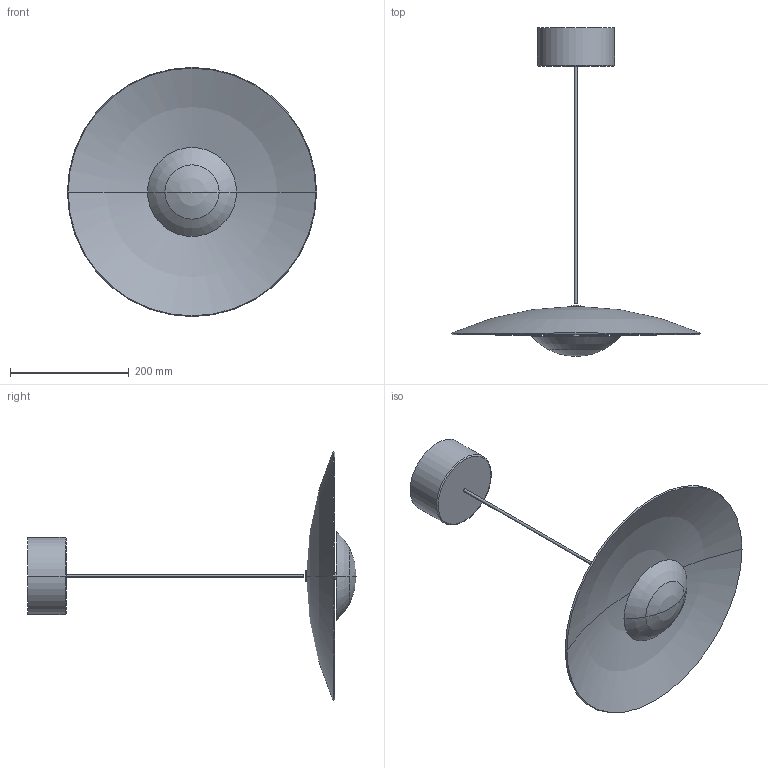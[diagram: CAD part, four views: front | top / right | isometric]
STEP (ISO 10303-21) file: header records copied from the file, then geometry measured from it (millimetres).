
FILE_DESCRIPTION((''),'2;1');
FILE_NAME('GINGER_42_ASM','2014-07-17T',('oftec'),(''),'PRO/ENGINEER BY PARAMETRIC TECHNOLOGY CORPORATION, 2012130','PRO/ENGINEER BY PARAMETRIC TECHNOLOGY CORPORATION, 2012130','');
FILE_SCHEMA(('CONFIG_CONTROL_DESIGN'));
Length unit declared in the file: millimetre
Products named in the file (7): 662-012; 662-014; 662-013; 662-036; FLORON_GINGER; CABLE_GINGER; GINGER_42_ASM
Assembly tree (6 placements, depth 2):
  GINGER_42_ASM
    662-012
    662-014
    662-013
    662-036
    FLORON_GINGER
    CABLE_GINGER
Bounding box: 420 x 554 x 420 mm (x, y, z)
Volume: 1630003.2 mm3; surface area: 393111.1 mm2
Topology: 6 solids, 6 shells, 43 faces, 84 edges, 48 vertices
Faces by surface type: cylinder 14, sphere 10, plane 9, torus 6, cone 4
Entity records: 1262 total; most frequent: DIRECTION 254, CARTESIAN_POINT 184, ORIENTED_EDGE 160, AXIS2_PLACEMENT_3D 118, EDGE_CURVE 80, CIRCLE 62, VERTEX_POINT 48, EDGE_LOOP 44
